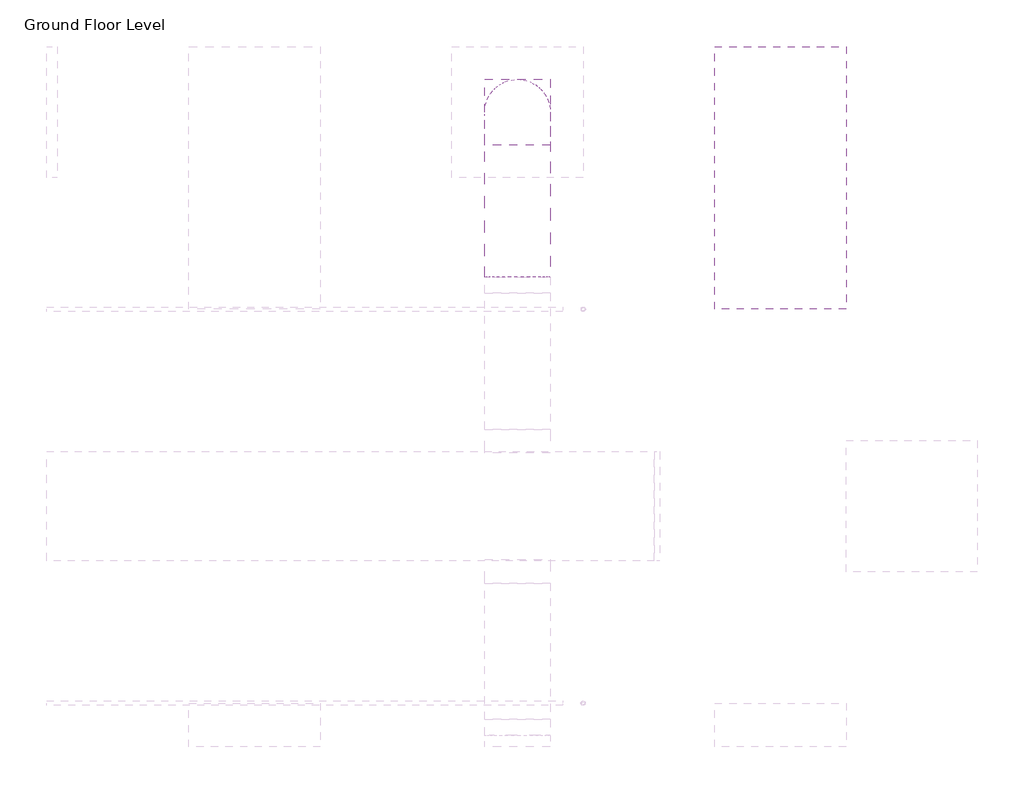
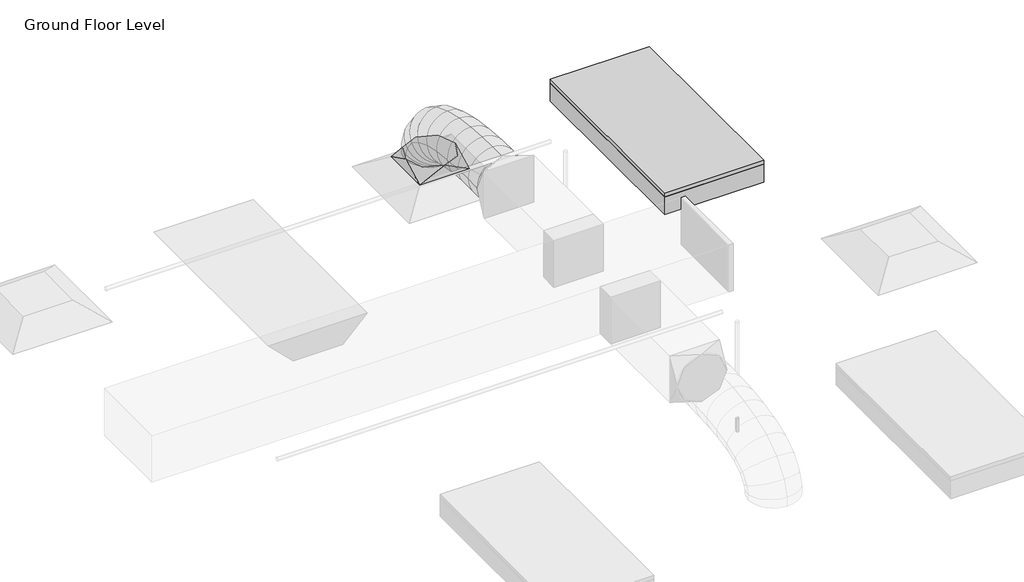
# One storey, part 66 of 66: 1 duct fitting, 1 duct segment, 1 light fixture.
"""IFC4 building model written with IfcOpenShell, lengths in millimetres."""

from ifc_helpers import new_model, si_unit, frame, origin, place, context, project, spatial, circle_curve, ellipse_curve, transform, mapped, element, save
from ifc_brep_helpers import plane_surface, cylinder_surface, advanced_brep
from components import m_rectangular_to_round_transition_angle_45_degree_641efff0, m_troffer_light_parabolic_rectangular1_0600x1200mm_4_lamp_86473d4a

model = new_model("IFC4")

# Units and contexts
model_context = context("Model", 3, world=origin())
ifc_project = project(units=[si_unit("LENGTHUNIT", "METRE", prefix="MILLI")], contexts=[model_context])

# Site, building, storey
site = spatial("IfcSite", under=ifc_project)
building = spatial("IfcBuilding", under=site)
storey = spatial("IfcBuildingStorey", under=building, Name="Ground Floor Level", Elevation=900.0)

# Duct fitting
placement = place(None, origin())
m_rectangular_to_round_transition_angle_45_degree_shape = m_rectangular_to_round_transition_angle_45_degree_641efff0(model_context)
element("IfcDuctFitting", 1, ObjectType="M_Rectangular to Round Transition - Angle : 45 Degree", at=placement, inside=storey, context=model_context, shape_type="MappedRepresentation", body=[
    mapped(m_rectangular_to_round_transition_angle_45_degree_shape, transform((13142.7672395, 20535.2153534, 3751.6), x_axis=(0.0, 0.0, 1.0), y_axis=(-1.0, 0.0, 0.0), z_axis=(0.0, -1.0, 0.0))),
])

# Duct segment
element("IfcDuctSegment", 2, ObjectType="Flex - Round", at=placement, inside=storey, context=model_context, shape_type="AdvancedBrep", body=[
    advanced_brep(
    [(13292.7672395, 20535.2153534, 3826.6), (13142.7672395, 20385.2153534, 3826.6), (12992.7672395, 20535.2153534, 3826.6), (13142.7672395, 20685.2153534, 3826.6), (13292.7672395, 20535.2153534, 3857.9377114), (13142.7672395, 20385.2153534, 3832.2944892), (12992.7672395, 20535.2153534, 3857.9377114), (13142.7672395, 20685.2153534, 3883.5809337), (13292.7672395, 20518.1994208, 3906.2505728), (13142.7672395, 20384.4614419, 3834.435049), (12992.7672395, 20518.1994208, 3906.2505728), (13142.7672395, 20651.9373998, 3978.0660967), (13292.7672395, 20471.0155405, 3968.7113131), (13142.7672395, 20366.8096412, 3857.8020236), (12992.7672395, 20471.0155405, 3968.7113131), (13142.7672395, 20575.2214397, 4079.6206026), (13292.7672395, 20399.4595883, 4016.0700639), (13142.7672395, 20330.5255327, 3881.8163788), (12992.7672395, 20399.4595883, 4016.0700639), (13142.7672395, 20468.3936439, 4150.3237489), (13292.7672395, 20309.3274403, 4050.4146682), (13142.7672395, 20265.7666771, 3906.4925606), (12992.7672395, 20309.3274403, 4050.4146682), (13142.7672395, 20352.8882035, 4194.3367758), (13292.7672395, 20206.4149725, 4073.8329691), (13142.7672395, 20179.8540485, 3926.0424542), (12992.7672395, 20206.4149725, 4073.8329691), (13142.7672395, 20232.9758965, 4221.6234841), (13292.7672395, 20096.5180607, 4088.4128097), (13142.7672395, 20081.3671584, 3939.1085462), (12992.7672395, 20096.5180607, 4088.4128097), (13142.7672395, 20111.6689631, 4237.7170733), (13292.7672395, 19985.4325811, 4096.242033), (13142.7672395, 19977.9272529, 3946.398915), (12992.7672395, 19985.4325811, 4096.242033), (13142.7672395, 19992.9379093, 4246.085151), (13292.7672395, 19878.9544096, 4099.4084821), (13142.7672395, 19876.2629165, 3949.4222102), (12992.7672395, 19878.9544096, 4099.4084821), (13142.7672395, 19881.6459027, 4249.394754), (13292.7672395, 19782.8794221, 4100.0), (13142.7672395, 19783.8029299, 4249.9971571), (12992.7672395, 19782.8794221, 4100.0), (13142.7672395, 19781.9559143, 3950.0028429)],
    [
        (0, 1, circle_curve(frame((13142.7672395, 20535.2153534, 3826.6), z_axis=(0.0, 0.0, -1.0), x_axis=(1.0, 0.0, 0.0)), 150.0)),
        (1, 2, circle_curve(frame((13142.7672395, 20535.2153534, 3826.6), z_axis=(0.0, 0.0, -1.0), x_axis=(1.0, 0.0, 0.0)), 150.0)),
        (2, 3, circle_curve(frame((13142.7672395, 20535.2153534, 3826.6), z_axis=(0.0, 0.0, -1.0), x_axis=(1.0, 0.0, 0.0)), 150.0)),
        (3, 0, circle_curve(frame((13142.7672395, 20535.2153534, 3826.6), z_axis=(0.0, 0.0, -1.0), x_axis=(1.0, 0.0, 0.0)), 150.0)),
        (0, 4),
        (4, 5, ellipse_curve(frame((13142.7672395, 20535.2153534, 3857.9377114), z_axis=(0.0, 0.16851014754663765, -0.9856999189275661), x_axis=(0.0, -0.985699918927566, -0.1685101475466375)), 152.176131, 150.0)),
        (5, 1),
        (5, 6, ellipse_curve(frame((13142.7672395, 20535.2153534, 3857.9377114), z_axis=(0.0, 0.16851014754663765, -0.9856999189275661), x_axis=(0.0, -0.985699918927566, -0.1685101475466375)), 152.176131, 150.0)),
        (6, 2),
        (6, 7, ellipse_curve(frame((13142.7672395, 20535.2153534, 3857.9377114), z_axis=(0.0, 0.16851014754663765, -0.9856999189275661), x_axis=(0.0, -0.985699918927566, -0.1685101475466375)), 152.176131, 150.0)),
        (7, 3),
        (7, 4, ellipse_curve(frame((13142.7672395, 20535.2153534, 3857.9377114), z_axis=(0.0, 0.16851014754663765, -0.9856999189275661), x_axis=(0.0, -0.985699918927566, -0.1685101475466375)), 152.176131, 150.0)),
        (4, 8),
        (8, 9, ellipse_curve(frame((13142.7672395, 20518.1994208, 3906.2505728), z_axis=(0.0, 0.4730922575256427, -0.881012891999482), x_axis=(0.0, -0.8810128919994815, -0.4730922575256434)), 151.8002519, 150.0)),
        (9, 5),
        (9, 10, ellipse_curve(frame((13142.7672395, 20518.1994208, 3906.2505728), z_axis=(0.0, 0.4730922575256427, -0.881012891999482), x_axis=(0.0, -0.8810128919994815, -0.4730922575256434)), 151.8002519, 150.0)),
        (10, 6),
        (10, 11, ellipse_curve(frame((13142.7672395, 20518.1994208, 3906.2505728), z_axis=(0.0, 0.4730922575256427, -0.881012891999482), x_axis=(0.0, -0.8810128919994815, -0.4730922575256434)), 151.8002519, 150.0)),
        (11, 7),
        (11, 8, ellipse_curve(frame((13142.7672395, 20518.1994208, 3906.2505728), z_axis=(0.0, 0.4730922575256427, -0.881012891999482), x_axis=(0.0, -0.8810128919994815, -0.4730922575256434)), 151.8002519, 150.0)),
        (8, 12),
        (12, 13, ellipse_curve(frame((13142.7672395, 20471.0155405, 3968.7113131), z_axis=(0.0, 0.7287877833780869, -0.68473963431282), x_axis=(0.0, -0.6847396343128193, -0.7287877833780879)), 152.1832446, 150.0)),
        (13, 9),
        (13, 14, ellipse_curve(frame((13142.7672395, 20471.0155405, 3968.7113131), z_axis=(0.0, 0.7287877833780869, -0.68473963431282), x_axis=(0.0, -0.6847396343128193, -0.7287877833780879)), 152.1832446, 150.0)),
        (14, 10),
        (14, 15, ellipse_curve(frame((13142.7672395, 20471.0155405, 3968.7113131), z_axis=(0.0, 0.7287877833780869, -0.68473963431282), x_axis=(0.0, -0.6847396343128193, -0.7287877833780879)), 152.1832446, 150.0)),
        (15, 11),
        (15, 12, ellipse_curve(frame((13142.7672395, 20471.0155405, 3968.7113131), z_axis=(0.0, 0.7287877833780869, -0.68473963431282), x_axis=(0.0, -0.6847396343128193, -0.7287877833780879)), 152.1832446, 150.0)),
        (12, 16),
        (16, 17, ellipse_curve(frame((13142.7672395, 20399.4595883, 4016.0700639), z_axis=(0.0, 0.8895859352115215, -0.45676784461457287), x_axis=(0.0, -0.45676784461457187, -0.889585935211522)), 150.91705, 150.0)),
        (17, 13),
        (17, 18, ellipse_curve(frame((13142.7672395, 20399.4595883, 4016.0700639), z_axis=(0.0, 0.8895859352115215, -0.45676784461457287), x_axis=(0.0, -0.45676784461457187, -0.889585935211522)), 150.91705, 150.0)),
        (18, 14),
        (18, 19, ellipse_curve(frame((13142.7672395, 20399.4595883, 4016.0700639), z_axis=(0.0, 0.8895859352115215, -0.45676784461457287), x_axis=(0.0, -0.45676784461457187, -0.889585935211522)), 150.91705, 150.0)),
        (19, 15),
        (19, 16, ellipse_curve(frame((13142.7672395, 20399.4595883, 4016.0700639), z_axis=(0.0, 0.8895859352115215, -0.45676784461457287), x_axis=(0.0, -0.45676784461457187, -0.889585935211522)), 150.91705, 150.0)),
        (16, 20),
        (20, 21, ellipse_curve(frame((13142.7672395, 20309.3274403, 4050.4146682), z_axis=(0.0, 0.9571203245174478, -0.2896906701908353), x_axis=(0.0, -0.28969067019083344, -0.9571203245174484)), 150.369921, 150.0)),
        (21, 17),
        (21, 22, ellipse_curve(frame((13142.7672395, 20309.3274403, 4050.4146682), z_axis=(0.0, 0.9571203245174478, -0.2896906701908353), x_axis=(0.0, -0.28969067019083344, -0.9571203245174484)), 150.369921, 150.0)),
        (22, 18),
        (22, 23, ellipse_curve(frame((13142.7672395, 20309.3274403, 4050.4146682), z_axis=(0.0, 0.9571203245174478, -0.2896906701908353), x_axis=(0.0, -0.28969067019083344, -0.9571203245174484)), 150.369921, 150.0)),
        (23, 19),
        (23, 20, ellipse_curve(frame((13142.7672395, 20309.3274403, 4050.4146682), z_axis=(0.0, 0.9571203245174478, -0.2896906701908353), x_axis=(0.0, -0.28969067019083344, -0.9571203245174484)), 150.369921, 150.0)),
        (20, 24),
        (24, 25, ellipse_curve(frame((13142.7672395, 20206.4149725, 4073.8329691), z_axis=(0.0, 0.9842313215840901, -0.17688613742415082), x_axis=(0.0, -0.17688613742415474, -0.9842313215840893)), 150.1583131, 150.0)),
        (25, 21),
        (25, 26, ellipse_curve(frame((13142.7672395, 20206.4149725, 4073.8329691), z_axis=(0.0, 0.9842313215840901, -0.17688613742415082), x_axis=(0.0, -0.17688613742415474, -0.9842313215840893)), 150.1583131, 150.0)),
        (26, 22),
        (26, 27, ellipse_curve(frame((13142.7672395, 20206.4149725, 4073.8329691), z_axis=(0.0, 0.9842313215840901, -0.17688613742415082), x_axis=(0.0, -0.17688613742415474, -0.9842313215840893)), 150.1583131, 150.0)),
        (27, 23),
        (27, 24, ellipse_curve(frame((13142.7672395, 20206.4149725, 4073.8329691), z_axis=(0.0, 0.9842313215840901, -0.17688613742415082), x_axis=(0.0, -0.17688613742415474, -0.9842313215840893)), 150.1583131, 150.0)),
        (24, 28),
        (28, 29, ellipse_curve(frame((13142.7672395, 20096.5180607, 4088.4128097), z_axis=(0.0, 0.9948906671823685, -0.10095821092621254), x_axis=(0.0, -0.10095821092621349, -0.9948906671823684)), 150.0710264, 150.0)),
        (29, 25),
        (29, 30, ellipse_curve(frame((13142.7672395, 20096.5180607, 4088.4128097), z_axis=(0.0, 0.9948906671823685, -0.10095821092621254), x_axis=(0.0, -0.10095821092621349, -0.9948906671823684)), 150.0710264, 150.0)),
        (30, 26),
        (30, 31, ellipse_curve(frame((13142.7672395, 20096.5180607, 4088.4128097), z_axis=(0.0, 0.9948906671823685, -0.10095821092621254), x_axis=(0.0, -0.10095821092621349, -0.9948906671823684)), 150.0710264, 150.0)),
        (31, 27),
        (31, 28, ellipse_curve(frame((13142.7672395, 20096.5180607, 4088.4128097), z_axis=(0.0, 0.9948906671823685, -0.10095821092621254), x_axis=(0.0, -0.10095821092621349, -0.9948906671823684)), 150.0710264, 150.0)),
        (28, 32),
        (32, 33, ellipse_curve(frame((13142.7672395, 19985.4325811, 4096.242033), z_axis=(0.0, 0.9987479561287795, -0.05002519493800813), x_axis=(0.0, -0.05002519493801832, -0.9987479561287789)), 150.0309634, 150.0)),
        (33, 29),
        (33, 34, ellipse_curve(frame((13142.7672395, 19985.4325811, 4096.242033), z_axis=(0.0, 0.9987479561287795, -0.05002519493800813), x_axis=(0.0, -0.05002519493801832, -0.9987479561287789)), 150.0309634, 150.0)),
        (34, 30),
        (34, 35, ellipse_curve(frame((13142.7672395, 19985.4325811, 4096.242033), z_axis=(0.0, 0.9987479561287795, -0.05002519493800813), x_axis=(0.0, -0.05002519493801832, -0.9987479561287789)), 150.0309634, 150.0)),
        (35, 31),
        (35, 32, ellipse_curve(frame((13142.7672395, 19985.4325811, 4096.242033), z_axis=(0.0, 0.9987479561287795, -0.05002519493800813), x_axis=(0.0, -0.05002519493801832, -0.9987479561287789)), 150.0309634, 150.0)),
        (32, 36),
        (36, 37, ellipse_curve(frame((13142.7672395, 19878.9544096, 4099.4084821), z_axis=(0.0, 0.9998390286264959, -0.01794204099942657), x_axis=(0.0, -0.01794204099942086, -0.999839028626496)), 150.0104193, 150.0)),
        (37, 33),
        (37, 38, ellipse_curve(frame((13142.7672395, 19878.9544096, 4099.4084821), z_axis=(0.0, 0.9998390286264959, -0.01794204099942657), x_axis=(0.0, -0.01794204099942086, -0.999839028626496)), 150.0104193, 150.0)),
        (38, 34),
        (38, 39, ellipse_curve(frame((13142.7672395, 19878.9544096, 4099.4084821), z_axis=(0.0, 0.9998390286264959, -0.01794204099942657), x_axis=(0.0, -0.01794204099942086, -0.999839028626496)), 150.0104193, 150.0)),
        (39, 35),
        (39, 36, ellipse_curve(frame((13142.7672395, 19878.9544096, 4099.4084821), z_axis=(0.0, 0.9998390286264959, -0.01794204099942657), x_axis=(0.0, -0.01794204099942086, -0.999839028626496)), 150.0104193, 150.0)),
        (40, 41, circle_curve(frame((13142.7672395, 19782.8794221, 4100.0), z_axis=(0.0, -0.9999810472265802, 0.006156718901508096), x_axis=(1.0, 0.0, 0.0)), 150.0)),
        (41, 42, circle_curve(frame((13142.7672395, 19782.8794221, 4100.0), z_axis=(0.0, -0.9999810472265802, 0.006156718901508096), x_axis=(1.0, 0.0, 0.0)), 150.0)),
        (42, 43, circle_curve(frame((13142.7672395, 19782.8794221, 4100.0), z_axis=(0.0, -0.9999810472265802, 0.006156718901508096), x_axis=(1.0, 0.0, 0.0)), 150.0)),
        (43, 40, circle_curve(frame((13142.7672395, 19782.8794221, 4100.0), z_axis=(0.0, -0.9999810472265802, 0.006156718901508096), x_axis=(1.0, 0.0, 0.0)), 150.0)),
        (36, 40),
        (43, 37),
        (42, 38),
        (41, 39),
    ],
    [
        plane_surface(frame((13142.7672395, 20385.2153534, 3826.6), z_axis=(0.0, 0.0, -1.0), x_axis=(1.0, 0.0, 0.0))),
        cylinder_surface(frame((13142.7672395, 20535.2153534, 3826.6), z_axis=(0.0, 0.0, -1.0), x_axis=(1.0, 0.0, 0.0)), 150.0),
        cylinder_surface(frame((13142.7672395, 20535.2153534, 3857.9377114), z_axis=(0.0, 0.33220087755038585, -0.9432086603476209), x_axis=(1.0, 0.0, 0.0)), 150.0),
        cylinder_surface(frame((13142.7672395, 20518.1994208, 3906.2505728), z_axis=(0.0, 0.6027625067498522, -0.7979206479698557), x_axis=(1.0, 0.0, 0.0)), 150.0),
        cylinder_surface(frame((13142.7672395, 20471.0155405, 3968.7113131), z_axis=(0.0, 0.833902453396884, -0.5519118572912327), x_axis=(1.0, 0.0, 0.0)), 150.0),
        cylinder_surface(frame((13142.7672395, 20399.4595883, 4016.0700639), z_axis=(0.0, 0.9344582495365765, -0.3560727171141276), x_axis=(1.0, 0.0, 0.0)), 150.0),
        cylinder_surface(frame((13142.7672395, 20309.3274403, 4050.4146682), z_axis=(0.0, 0.9750732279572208, -0.2218833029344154), x_axis=(1.0, 0.0, 0.0)), 150.0),
        cylinder_surface(frame((13142.7672395, 20206.4149725, 4073.8329691), z_axis=(0.0, 0.991314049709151, -0.13151598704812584), x_axis=(1.0, 0.0, 0.0)), 150.0),
        cylinder_surface(frame((13142.7672395, 20096.5180607, 4088.4128097), z_axis=(0.0, 0.9975255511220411, -0.07030487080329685), x_axis=(1.0, 0.0, 0.0)), 150.0),
        cylinder_surface(frame((13142.7672395, 19985.4325811, 4096.242033), z_axis=(0.0, 0.9995581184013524, -0.02972487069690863), x_axis=(1.0, 0.0, 0.0)), 150.0),
        plane_surface(frame((13142.7672395, 19781.9559143, 3950.0028429), z_axis=(0.0, -0.9999810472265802, 0.006156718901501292), x_axis=(1.0, 0.0, 0.0))),
        cylinder_surface(frame((13142.7672395, 19878.9544096, 4099.4084821), z_axis=(0.0, 0.9999810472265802, -0.006156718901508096), x_axis=(1.0, 0.0, 0.0)), 150.0),
    ],
    [
        (0, [[1, 2, 3, 4]]),
        (1, [[-1, 5, 6, 7]]),
        (1, [[-2, -7, 8, 9]]),
        (1, [[-3, -9, 10, 11]]),
        (1, [[-4, -11, 12, -5]]),
        (2, [[-6, 13, 14, 15]]),
        (2, [[-8, -15, 16, 17]]),
        (2, [[-10, -17, 18, 19]]),
        (2, [[-12, -19, 20, -13]]),
        (3, [[-14, 21, 22, 23]]),
        (3, [[-16, -23, 24, 25]]),
        (3, [[-18, -25, 26, 27]]),
        (3, [[-20, -27, 28, -21]]),
        (4, [[-22, 29, 30, 31]]),
        (4, [[-24, -31, 32, 33]]),
        (4, [[-26, -33, 34, 35]]),
        (4, [[-28, -35, 36, -29]]),
        (5, [[-30, 37, 38, 39]]),
        (5, [[-32, -39, 40, 41]]),
        (5, [[-34, -41, 42, 43]]),
        (5, [[-36, -43, 44, -37]]),
        (6, [[-38, 45, 46, 47]]),
        (6, [[-40, -47, 48, 49]]),
        (6, [[-42, -49, 50, 51]]),
        (6, [[-44, -51, 52, -45]]),
        (7, [[-46, 53, 54, 55]]),
        (7, [[-48, -55, 56, 57]]),
        (7, [[-50, -57, 58, 59]]),
        (7, [[-52, -59, 60, -53]]),
        (8, [[-54, 61, 62, 63]]),
        (8, [[-56, -63, 64, 65]]),
        (8, [[-58, -65, 66, 67]]),
        (8, [[-60, -67, 68, -61]]),
        (9, [[-62, 69, 70, 71]]),
        (9, [[-64, -71, 72, 73]]),
        (9, [[-66, -73, 74, 75]]),
        (9, [[-68, -75, 76, -69]]),
        (10, [[77, 78, 79, 80]]),
        (11, [[-70, 81, -80, 82]]),
        (11, [[-72, -82, -79, 83]]),
        (11, [[-74, -83, -78, 84]]),
        (11, [[-76, -84, -77, -81]]),
    ],
),
])

# Light fixture
m_troffer_light_parabolic_rectangular1_0600x1200mm_4_lamp_shape = m_troffer_light_parabolic_rectangular1_0600x1200mm_4_lamp_86473d4a(model_context)
element("IfcLightFixture", 3, ObjectType="M_Troffer Light - Parabolic Rectangular1 : 0600x1200mm(4 Lamp) - 277V 2", at=placement, inside=storey, context=model_context, shape_type="MappedRepresentation", body=[
    mapped(m_troffer_light_parabolic_rectangular1_0600x1200mm_4_lamp_shape, transform((14283.3013074, 20253.918855, 3650.0), x_axis=(0.0, 1.0, 0.0), y_axis=(-1.0, 0.0, 0.0), z_axis=(0.0, 0.0, 1.0))),
])

save(model, "model.ifc")
